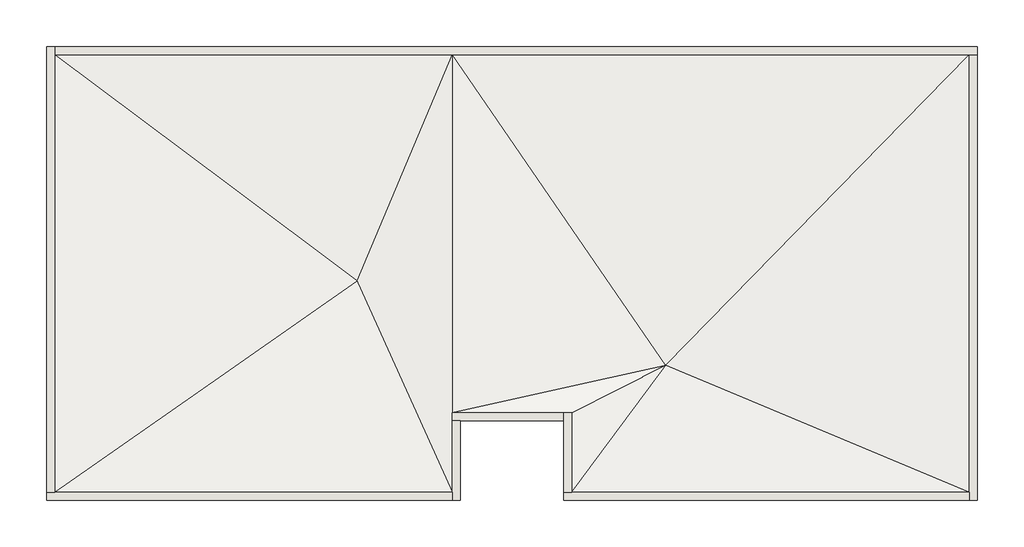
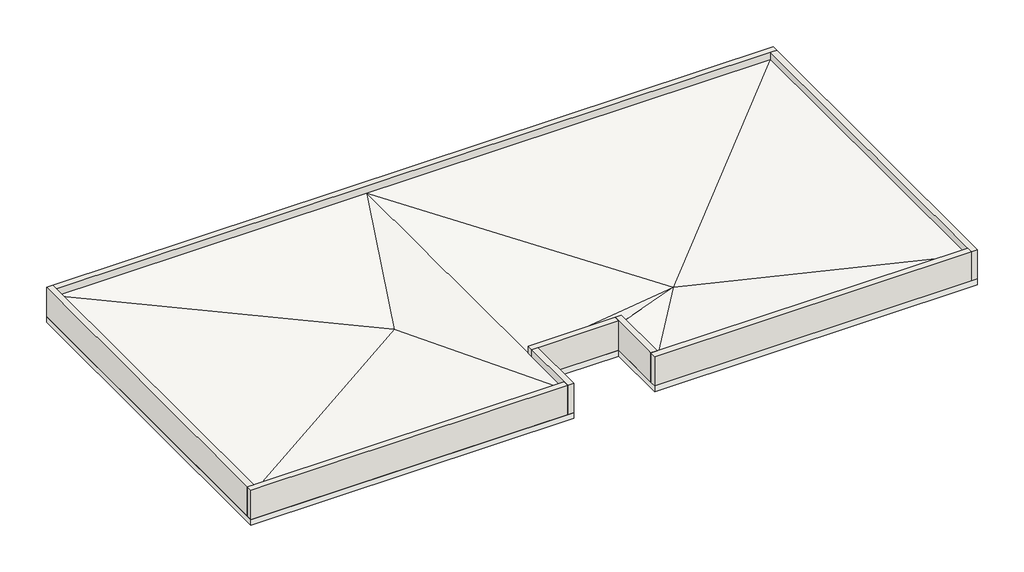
# One storey: 8 walls, 1 roof, 1 slab.
"""IFC4 building model written with IfcOpenShell, lengths in millimetres."""

from ifc_helpers import new_model, si_unit, frame, origin, place, context, project, spatial, polyline, outline, extrude, faceted_brep, element, save

model = new_model("IFC4")

# Units and contexts
model_context = context("Model", 3, world=origin())
ifc_project = project(units=[si_unit("LENGTHUNIT", "METRE", prefix="MILLI")], contexts=[model_context])

# Site, building, storey
site = spatial("IfcSite", under=ifc_project)
building = spatial("IfcBuilding", under=site)
storey = spatial("IfcBuildingStorey", under=building, Name="Střecha", Elevation=6000.0)

# Roof
placement = place(None, origin())
element("IfcRoof", 1, ObjectType="Obecné, 400mm", at=placement, inside=storey, context=model_context, shape_type="Brep", body=[
    faceted_brep([(0.0, 13500.0, 5850.0), (23000.0, 13500.0, 5850.0), (23000.0, 2500.0, 5850.0), (13000.0, 2500.0, 5850.0), (13000.0, 4500.0, 5850.0), (10000.0, 4500.0, 5850.0), (10000.0, 2500.0, 5850.0), (0.0, 2500.0, 5850.0), (23000.0, 13500.0, 6600.0), (0.0, 13500.0, 6600.0), (10000.0, 13500.0, 6600.0), (0.0, 2500.0, 6600.0), (10000.0, 2500.0, 6600.0), (10000.0, 4500.0, 6600.0), (13000.0, 4500.0, 6600.0), (13000.0, 2500.0, 6600.0), (23000.0, 2500.0, 6600.0), (7604.8671913, 7808.1886663, 6250.0), (15364.9393012, 5685.4873387, 6250.0)], [[[0, 1, 2, 3, 4, 5, 6, 7]], [[8, 1, 0, 9, 10]], [[9, 0, 7, 11]], [[11, 7, 6, 12]], [[12, 6, 5, 13]], [[13, 5, 4, 14]], [[14, 4, 3, 15]], [[15, 3, 2, 16]], [[16, 2, 1, 8]], [[9, 11, 17]], [[11, 12, 17]], [[12, 13, 10, 17]], [[13, 14, 18]], [[9, 17, 10]], [[15, 16, 18]], [[14, 15, 18]], [[16, 8, 18]], [[8, 10, 18]], [[13, 18, 10]]]),
])

# Slab
element("IfcSlab", 2, ObjectType="Železobeton 200 mm", at=placement, inside=storey, context=model_context, shape_type="SweptSolid", body=[
    extrude(outline(polyline([(23200.0, 13700.0), (23200.0, 2300.0), (12800.0, 2300.0), (12800.0, 4300.0), (10200.0, 4300.0), (10200.0, 2300.0), (-200.0, 2300.0), (-200.0, 13700.0), (23200.0, 13700.0)])), frame((0.0, 0.0, 5650.0), z_axis=(0.0, 0.0, 1.0), x_axis=(1.0, 0.0, 0.0)), (0.0, 0.0, 1.0), 200.0),
])

# Walls
element("IfcWall", 3, ObjectType="Železobeton 200 mm", at=placement, inside=storey, context=model_context, shape_type="Brep", body=[
    faceted_brep([(23000.0, 13500.0, 5850.0), (23000.0, 2500.0, 5850.0), (23000.0, 2300.0, 5850.0), (23000.0, 2300.0, 6850.0), (23000.0, 2500.0, 6850.0), (23000.0, 13500.0, 6850.0), (23200.0, 13500.0, 5850.0), (23200.0, 13500.0, 6850.0), (23200.0, 2300.0, 6850.0), (23200.0, 2300.0, 5850.0)], [[[0, 1, 2, 3, 4, 5]], [[6, 7, 8, 9]], [[2, 1, 0, 6, 9]], [[5, 4, 3, 8, 7]], [[3, 2, 9, 8]], [[0, 5, 7, 6]]]),
])
element("IfcWall", 4, ObjectType="Železobeton 200 mm", at=placement, inside=storey, context=model_context, shape_type="Brep", body=[
    faceted_brep([(23000.0, 2500.0, 5850.0), (13000.0, 2500.0, 5850.0), (12800.0, 2500.0, 5850.0), (12800.0, 2500.0, 6850.0), (13000.0, 2500.0, 6850.0), (23000.0, 2500.0, 6850.0), (23000.0, 2300.0, 5850.0), (23000.0, 2300.0, 6850.0), (12800.0, 2300.0, 6850.0), (12800.0, 2300.0, 5850.0)], [[[0, 1, 2, 3, 4, 5]], [[6, 7, 8, 9]], [[2, 1, 0, 6, 9]], [[5, 4, 3, 8, 7]], [[3, 2, 9, 8]], [[0, 5, 7, 6]]]),
])
element("IfcWall", 5, ObjectType="Železobeton 200 mm", at=placement, inside=storey, context=model_context, shape_type="Brep", body=[
    faceted_brep([(13000.0, 2500.0, 5850.0), (13000.0, 4500.0, 5850.0), (13000.0, 4500.0, 6850.0), (13000.0, 2500.0, 6850.0), (12800.0, 2500.0, 5850.0), (12800.0, 2500.0, 6850.0), (12800.0, 4300.0, 6850.0), (12800.0, 4500.0, 6850.0), (12800.0, 4500.0, 5850.0), (12800.0, 4300.0, 5850.0)], [[[0, 1, 2, 3]], [[4, 5, 6, 7, 8, 9]], [[1, 0, 4, 9, 8]], [[3, 2, 7, 6, 5]], [[2, 1, 8, 7]], [[0, 3, 5, 4]]]),
])
element("IfcWall", 6, ObjectType="Železobeton 200 mm", at=placement, inside=storey, context=model_context, shape_type="Brep", body=[
    faceted_brep([(12800.0, 4500.0, 5850.0), (10000.0, 4500.0, 5850.0), (10000.0, 4500.0, 6850.0), (12800.0, 4500.0, 6850.0), (12800.0, 4300.0, 5850.0), (12800.0, 4300.0, 6850.0), (10200.0, 4300.0, 6850.0), (10000.0, 4300.0, 6850.0), (10000.0, 4300.0, 5850.0), (10200.0, 4300.0, 5850.0)], [[[0, 1, 2, 3]], [[4, 5, 6, 7, 8, 9]], [[1, 0, 4, 9, 8]], [[3, 2, 7, 6, 5]], [[2, 1, 8, 7]], [[0, 3, 5, 4]]]),
])
element("IfcWall", 7, ObjectType="Železobeton 200 mm", at=placement, inside=storey, context=model_context, shape_type="Brep", body=[
    faceted_brep([(10000.0, 4300.0, 5850.0), (10000.0, 2500.0, 5850.0), (10000.0, 2300.0, 5850.0), (10000.0, 2300.0, 6850.0), (10000.0, 2500.0, 6850.0), (10000.0, 4300.0, 6850.0), (10200.0, 4300.0, 5850.0), (10200.0, 4300.0, 6850.0), (10200.0, 2300.0, 6850.0), (10200.0, 2300.0, 5850.0)], [[[0, 1, 2, 3, 4, 5]], [[6, 7, 8, 9]], [[2, 1, 0, 6, 9]], [[5, 4, 3, 8, 7]], [[3, 2, 9, 8]], [[0, 5, 7, 6]]]),
])
element("IfcWall", 8, ObjectType="Železobeton 200 mm", at=placement, inside=storey, context=model_context, shape_type="Brep", body=[
    faceted_brep([(10000.0, 2500.0, 5850.0), (0.0, 2500.0, 5850.0), (-200.0, 2500.0, 5850.0), (-200.0, 2500.0, 6850.0), (0.0, 2500.0, 6850.0), (10000.0, 2500.0, 6850.0), (10000.0, 2300.0, 5850.0), (10000.0, 2300.0, 6850.0), (-200.0, 2300.0, 6850.0), (-200.0, 2300.0, 5850.0)], [[[0, 1, 2, 3, 4, 5]], [[6, 7, 8, 9]], [[2, 1, 0, 6, 9]], [[5, 4, 3, 8, 7]], [[3, 2, 9, 8]], [[0, 5, 7, 6]]]),
])
element("IfcWall", 9, ObjectType="Železobeton 200 mm", at=placement, inside=storey, context=model_context, shape_type="Brep", body=[
    faceted_brep([(0.0, 2500.0, 5850.0), (0.0, 13500.0, 5850.0), (0.0, 13700.0, 5850.0), (0.0, 13700.0, 6850.0), (0.0, 13500.0, 6850.0), (0.0, 2500.0, 6850.0), (-200.0, 2500.0, 5850.0), (-200.0, 2500.0, 6850.0), (-200.0, 13700.0, 6850.0), (-200.0, 13700.0, 5850.0)], [[[0, 1, 2, 3, 4, 5]], [[6, 7, 8, 9]], [[2, 1, 0, 6, 9]], [[5, 4, 3, 8, 7]], [[3, 2, 9, 8]], [[0, 5, 7, 6]]]),
])
element("IfcWall", 10, ObjectType="Železobeton 200 mm", at=placement, inside=storey, context=model_context, shape_type="Brep", body=[
    faceted_brep([(0.0, 13500.0, 5850.0), (23000.0, 13500.0, 5850.0), (23200.0, 13500.0, 5850.0), (23200.0, 13500.0, 6850.0), (23000.0, 13500.0, 6850.0), (0.0, 13500.0, 6850.0), (0.0, 13700.0, 5850.0), (0.0, 13700.0, 6850.0), (23200.0, 13700.0, 6850.0), (23200.0, 13700.0, 5850.0)], [[[0, 1, 2, 3, 4, 5]], [[6, 7, 8, 9]], [[2, 1, 0, 6, 9]], [[5, 4, 3, 8, 7]], [[3, 2, 9, 8]], [[0, 5, 7, 6]]]),
])

save(model, "model.ifc")
